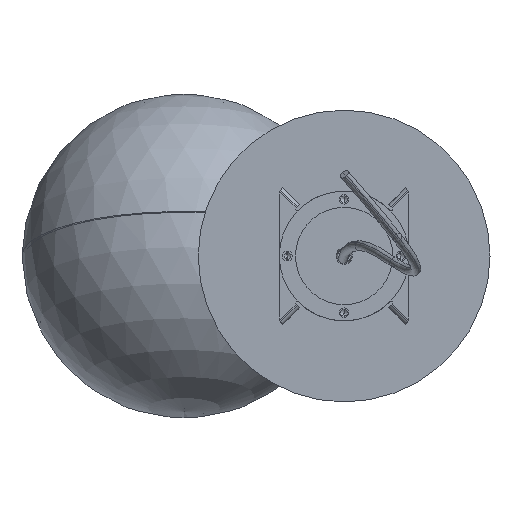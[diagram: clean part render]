
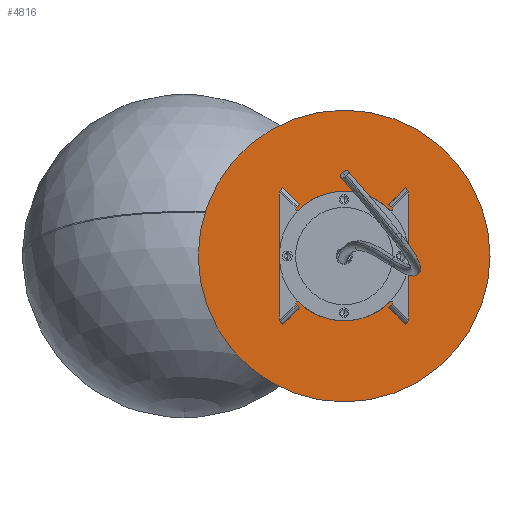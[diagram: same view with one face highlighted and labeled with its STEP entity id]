
A CAD part, front view. The second image highlights one B-rep face of the part: STEP entity #4816.
In plain terms, the highlighted planar face has unit normal (0, -1, 0) as drawn and (0, 1, 0) by its records, which use the part's own axes.
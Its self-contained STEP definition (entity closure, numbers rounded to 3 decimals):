
#284 = EDGE_CURVE ( 'NONE', #6789, #8143, #6684, .T. ) ;
#304 = CARTESIAN_POINT ( 'NONE',  ( -35., 2., 0. ) ) ;
#404 = ORIENTED_EDGE ( 'NONE', *, *, #7107, .F. ) ;
#464 = CARTESIAN_POINT ( 'NONE',  ( 35., 2., 2.75 ) ) ;
#530 = DIRECTION ( 'NONE',  ( 0., 1., 0. ) ) ;
#1286 = PLANE ( 'NONE',  #4339 ) ;
#1494 = FACE_OUTER_BOUND ( 'NONE', #2524, .T. ) ;
#1498 = EDGE_CURVE ( 'NONE', #4162, #9043, #2990, .T. ) ;
#1789 = CARTESIAN_POINT ( 'NONE',  ( 0., 2., 7. ) ) ;
#1874 = CIRCLE ( 'NONE', #6600, 2.75 ) ;
#2154 = DIRECTION ( 'NONE',  ( 0., 1., 0. ) ) ;
#2341 = CARTESIAN_POINT ( 'NONE',  ( 0., 2., 0. ) ) ;
#2524 = EDGE_LOOP ( 'NONE', ( #2730, #4187 ) ) ;
#2696 = EDGE_CURVE ( 'NONE', #6782, #7825, #1874, .T. ) ;
#2730 = ORIENTED_EDGE ( 'NONE', *, *, #5275, .T. ) ;
#2830 = AXIS2_PLACEMENT_3D ( 'NONE', #2921, #2154, #5271 ) ;
#2868 = CARTESIAN_POINT ( 'NONE',  ( -35., 2., -2.75 ) ) ;
#2921 = CARTESIAN_POINT ( 'NONE',  ( 0., 2., 0. ) ) ;
#2924 = ORIENTED_EDGE ( 'NONE', *, *, #5006, .T. ) ;
#2977 = FACE_BOUND ( 'NONE', #4290, .T. ) ;
#2988 = AXIS2_PLACEMENT_3D ( 'NONE', #8228, #7207, #8897 ) ;
#2990 = CIRCLE ( 'NONE', #6900, 7. ) ;
#3104 = AXIS2_PLACEMENT_3D ( 'NONE', #2341, #5454, #7692 ) ;
#3182 = CARTESIAN_POINT ( 'NONE',  ( -35., 2., 2.75 ) ) ;
#3325 = CIRCLE ( 'NONE', #2988, 7. ) ;
#3392 = CARTESIAN_POINT ( 'NONE',  ( 0., 2., 0. ) ) ;
#3475 = DIRECTION ( 'NONE',  ( 0., 0., 1. ) ) ;
#3516 = ORIENTED_EDGE ( 'NONE', *, *, #5438, .F. ) ;
#3846 = DIRECTION ( 'NONE',  ( 0., 1., 0. ) ) ;
#4162 = VERTEX_POINT ( 'NONE', #5654 ) ;
#4187 = ORIENTED_EDGE ( 'NONE', *, *, #284, .T. ) ;
#4290 = EDGE_LOOP ( 'NONE', ( #2924, #8477 ) ) ;
#4339 = AXIS2_PLACEMENT_3D ( 'NONE', #6904, #3846, #4424 ) ;
#4353 = DIRECTION ( 'NONE',  ( 0., 1., 0. ) ) ;
#4403 = VERTEX_POINT ( 'NONE', #464 ) ;
#4424 = DIRECTION ( 'NONE',  ( 0., 0., 1. ) ) ;
#4623 = FACE_BOUND ( 'NONE', #4857, .T. ) ;
#4816 = ADVANCED_FACE ( 'NONE', ( #2977, #6088, #1494, #4623 ), #1286, .T. ) ;
#4857 = EDGE_LOOP ( 'NONE', ( #8262, #4987 ) ) ;
#4881 = AXIS2_PLACEMENT_3D ( 'NONE', #6775, #530, #5958 ) ;
#4987 = ORIENTED_EDGE ( 'NONE', *, *, #9658, .F. ) ;
#5006 = EDGE_CURVE ( 'NONE', #9043, #4162, #3325, .T. ) ;
#5271 = DIRECTION ( 'NONE',  ( 0., 0., 1. ) ) ;
#5275 = EDGE_CURVE ( 'NONE', #8143, #6789, #7546, .T. ) ;
#5438 = EDGE_CURVE ( 'NONE', #4403, #7394, #7443, .T. ) ;
#5454 = DIRECTION ( 'NONE',  ( 0., 1., 0. ) ) ;
#5654 = CARTESIAN_POINT ( 'NONE',  ( 0., 2., -7. ) ) ;
#5958 = DIRECTION ( 'NONE',  ( 0., 0., 1. ) ) ;
#6088 = FACE_BOUND ( 'NONE', #6628, .T. ) ;
#6451 = DIRECTION ( 'NONE',  ( 0., 1., 0. ) ) ;
#6488 = DIRECTION ( 'NONE',  ( 0., 1., 0. ) ) ;
#6490 = CIRCLE ( 'NONE', #8279, 2.75 ) ;
#6600 = AXIS2_PLACEMENT_3D ( 'NONE', #9862, #4353, #3475 ) ;
#6603 = DIRECTION ( 'NONE',  ( 0., -1., 0. ) ) ;
#6628 = EDGE_LOOP ( 'NONE', ( #404, #3516 ) ) ;
#6684 = CIRCLE ( 'NONE', #3104, 90. ) ;
#6775 = CARTESIAN_POINT ( 'NONE',  ( 35., 2., 0. ) ) ;
#6782 = VERTEX_POINT ( 'NONE', #2868 ) ;
#6789 = VERTEX_POINT ( 'NONE', #7460 ) ;
#6900 = AXIS2_PLACEMENT_3D ( 'NONE', #3392, #6603, #8904 ) ;
#6904 = CARTESIAN_POINT ( 'NONE',  ( 0., 2., 0. ) ) ;
#7107 = EDGE_CURVE ( 'NONE', #7394, #4403, #6490, .T. ) ;
#7158 = DIRECTION ( 'NONE',  ( 0., 0., 1. ) ) ;
#7207 = DIRECTION ( 'NONE',  ( 0., -1., 0. ) ) ;
#7394 = VERTEX_POINT ( 'NONE', #9289 ) ;
#7443 = CIRCLE ( 'NONE', #4881, 2.75 ) ;
#7460 = CARTESIAN_POINT ( 'NONE',  ( 0., 2., 90. ) ) ;
#7546 = CIRCLE ( 'NONE', #2830, 90. ) ;
#7692 = DIRECTION ( 'NONE',  ( 0., 0., 1. ) ) ;
#7799 = AXIS2_PLACEMENT_3D ( 'NONE', #304, #6451, #9768 ) ;
#7825 = VERTEX_POINT ( 'NONE', #3182 ) ;
#7874 = CARTESIAN_POINT ( 'NONE',  ( 35., 2., 0. ) ) ;
#8143 = VERTEX_POINT ( 'NONE', #8321 ) ;
#8228 = CARTESIAN_POINT ( 'NONE',  ( 0., 2., 0. ) ) ;
#8262 = ORIENTED_EDGE ( 'NONE', *, *, #2696, .F. ) ;
#8279 = AXIS2_PLACEMENT_3D ( 'NONE', #7874, #6488, #7158 ) ;
#8321 = CARTESIAN_POINT ( 'NONE',  ( 0., 2., -90. ) ) ;
#8477 = ORIENTED_EDGE ( 'NONE', *, *, #1498, .T. ) ;
#8897 = DIRECTION ( 'NONE',  ( 0., 0., 1. ) ) ;
#8904 = DIRECTION ( 'NONE',  ( 0., 0., 1. ) ) ;
#9043 = VERTEX_POINT ( 'NONE', #1789 ) ;
#9289 = CARTESIAN_POINT ( 'NONE',  ( 35., 2., -2.75 ) ) ;
#9589 = CIRCLE ( 'NONE', #7799, 2.75 ) ;
#9658 = EDGE_CURVE ( 'NONE', #7825, #6782, #9589, .T. ) ;
#9768 = DIRECTION ( 'NONE',  ( 0., 0., 1. ) ) ;
#9862 = CARTESIAN_POINT ( 'NONE',  ( -35., 2., 0. ) ) ;
